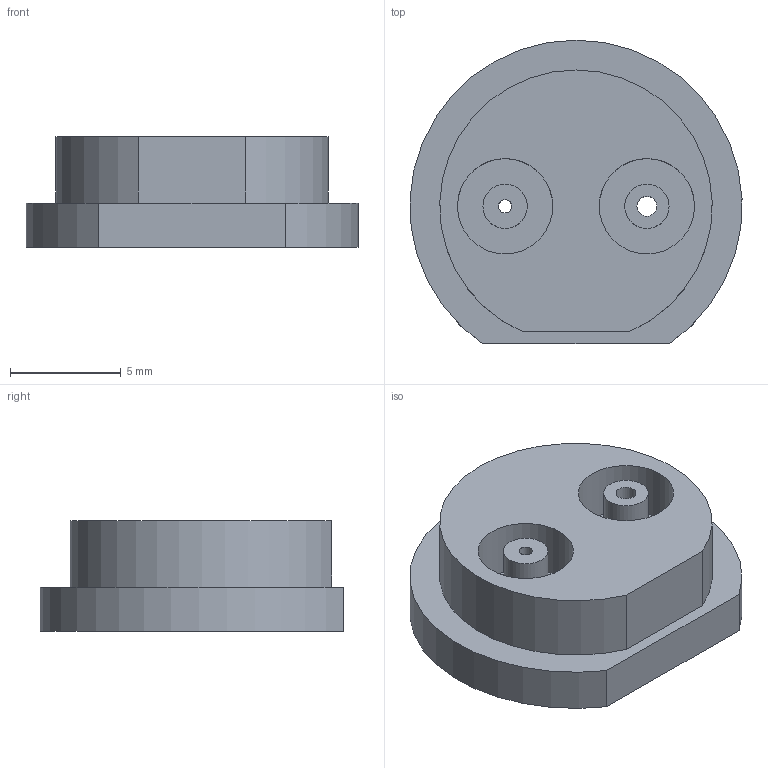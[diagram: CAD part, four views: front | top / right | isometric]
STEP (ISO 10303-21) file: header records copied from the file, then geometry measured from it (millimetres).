
FILE_DESCRIPTION(/* description */ ('Alibre Inc.'),/* implementation_level */ '2;1');
FILE_NAME(/* name */ 'export0',/* time_stamp */ '2017-06-19T12:41:33+02:00',/* author */ (''),/* organization */ (''),/* preprocessor_version */ 'ST-DEVELOPER v14',/* originating_system */ 'Alibre',/* authorisation */ '');
FILE_SCHEMA (('CONFIG_CONTROL_DESIGN'));
Length unit declared in the file: millimetre
Products named in the file (1): Fluidic-Cell-M2
Bounding box: 14.99 x 13.7 x 5 mm (x, y, z)
Volume: 567.7 mm3; surface area: 739.6 mm2
Topology: 1 solids, 1 shells, 21 faces, 38 edges, 26 vertices
Faces by surface type: plane 11, cylinder 10
Full cylindrical faces by diameter (mm): 0.6 x1, 0.9 x1, 2 x2, 4.3 x2, 7.8 x1, 11.2 x1
Entity records: 526 total; most frequent: DIRECTION 76, CARTESIAN_POINT 70, ORIENTED_EDGE 56, EDGE_LOOP 40, FACE_BOUND 40, AXIS2_PLACEMENT_3D 38, EDGE_CURVE 28, VERTEX_POINT 24
